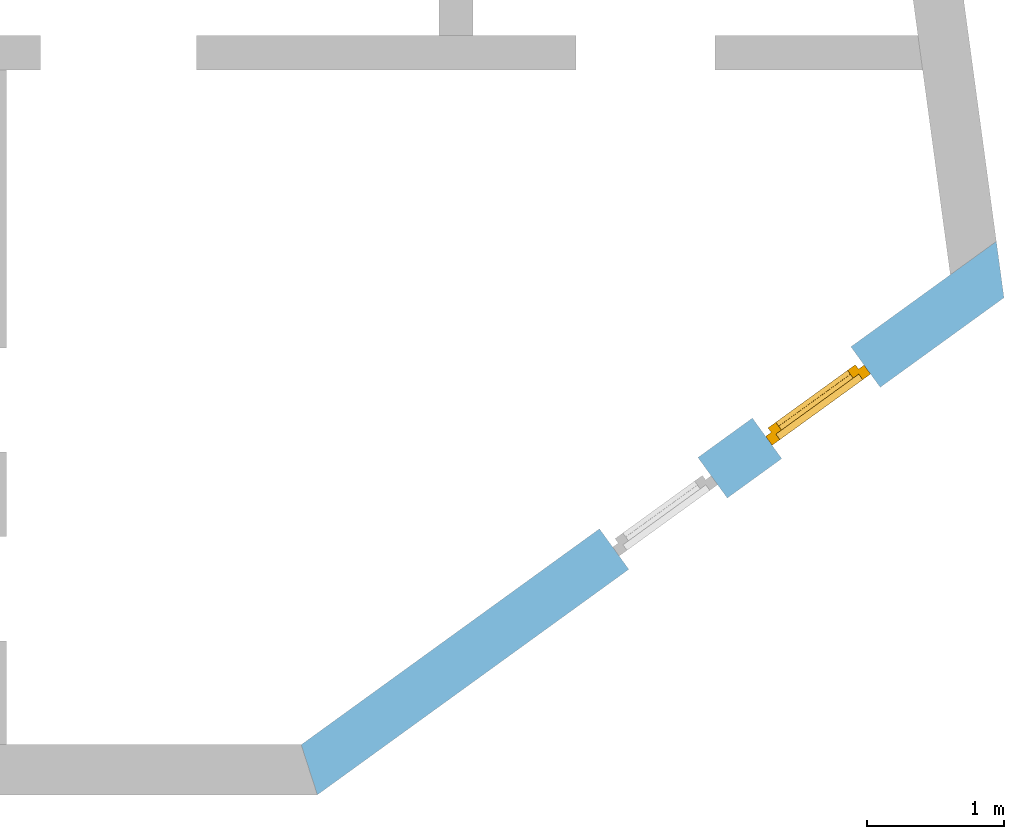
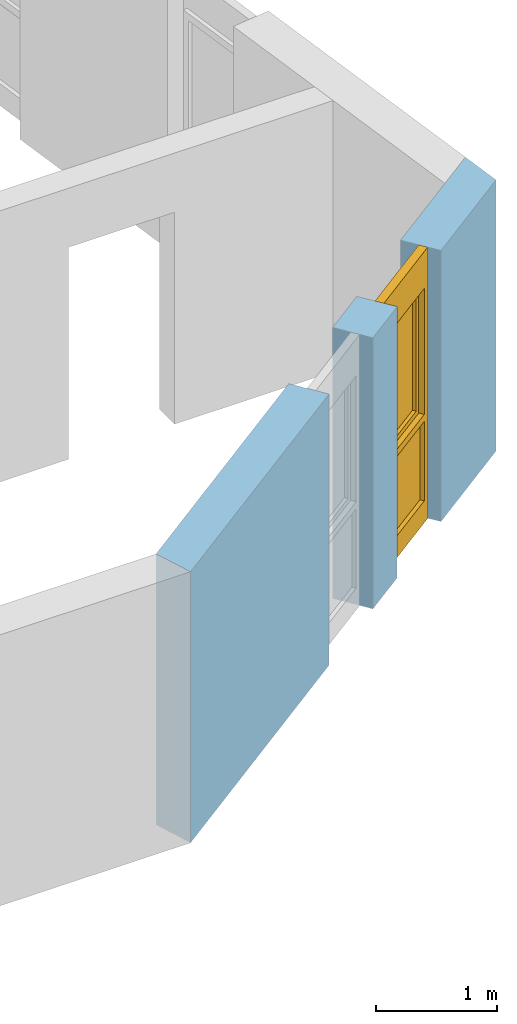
# One storey, part 36 of 41: 1 window, 2 openings, plus 1 element that does not belong to this part.
"""IFC2X3 building model written with IfcOpenShell, lengths in millimetres."""

from ifc_helpers import new_model, entity, si_unit, converted_unit, frame, frame_2d, origin, origin_with_axes, place, context, subcontext, project, spatial, polyline, rectangle, outline, extrude, faceted_brep, material, layer, layer_set, layer_usage, type_object, element, fill, save


model = new_model("IFC2X3")

# Units and contexts
model_context = context("Model", 3, precision=1e-05, world=origin())
body_context = subcontext(model_context, "Body", "Model", "MODEL_VIEW")
ifc_project = project(units=[si_unit("LENGTHUNIT", "METRE", prefix="MILLI"), converted_unit("PLANEANGLEUNIT", "DEGREE", entity("IfcPlaneAngleMeasure", 0.0174532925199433), si_unit("PLANEANGLEUNIT", "RADIAN"), dimensions=[0, 0, 0, 0, 0, 0, 0]), si_unit("AREAUNIT", "SQUARE_METRE"), si_unit("VOLUMEUNIT", "CUBIC_METRE")], contexts=[model_context])

# Building, storey
building_placement = place(None, origin())
building = spatial("IfcBuilding", under=ifc_project, at=building_placement, Name="Gebäude", CompositionType="ELEMENT")
storey_placement = place(building_placement, frame((0.0, 0.0, -200.0), z_axis=(0.0, 0.0, 1.0), x_axis=(1.0, 0.0, 0.0)))
storey = spatial("IfcBuildingStorey", under=building, at=storey_placement, Name="EG.- Grundriss", CompositionType="ELEMENT", Elevation=-200.0)

# Wall, openings, window
ifc_material_1 = material(Name="Poroton")
ifc_layer = layer(ifc_material_1, 364.9999999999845)
ifc_layer_set = layer_set([ifc_layer])
ifc_layer_usage = layer_usage(ifc_layer_set, "AXIS2", "POSITIVE", 0.0)
wall_placement = place(storey_placement, frame((180502.7928055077, 125274.8877315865, 0.0), z_axis=(0.0, 0.0, 1.0), x_axis=(0.8099951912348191, 0.5864365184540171, 0.0)))
wall = element("IfcWallStandardCase", 1, at=wall_placement, inside=storey, material=ifc_layer_usage, Name="<Unnamed Element>", context=body_context, shape_type="SweptSolid", body=[
    extrude(outline(polyline([(0.0, 0.0), (6172.876154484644, 0.0), (6368.596706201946, 364.9999999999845), (118.2596121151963, 365.0000000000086), (0.0, 0.0)])), origin_with_axes(), (0.0, 0.0, 1.0), 2730.0),
])
opening_1_placement = place(wall_placement, frame((4174.999999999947, 1.546140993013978e-11, 0.0), z_axis=(0.0, 1.0, 0.0), x_axis=(0.0, 0.0, 1.0)))
opening_1 = element("IfcOpeningElement", 2, at=opening_1_placement, cuts=wall, Name="Fensteröffnung", ObjectType="Opening", context=body_context, shape_type="SweptSolid", body=[
    extrude(rectangle(XDim=2730.0, YDim=885.0, at=frame_2d((1365.0, 442.5), x_axis=(1.0, 0.0))), origin_with_axes(), (0.0, 0.0, 1.0), 364.9999999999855),
])
opening_2_placement = place(wall_placement, frame((2799.999999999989, 2.023625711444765e-11, 0.0), z_axis=(0.0, 1.0, 0.0), x_axis=(0.0, 0.0, 1.0)))
element("IfcOpeningElement", 3, at=opening_2_placement, cuts=wall, Name="Fensteröffnung", ObjectType="Opening", context=body_context, shape_type="SweptSolid", body=[
    extrude(rectangle(XDim=2730.0, YDim=884.9999999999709, at=frame_2d((1365.0, 442.4999999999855), x_axis=(1.0, 0.0))), origin_with_axes(), (0.0, 0.0, 1.0), 365.0),
])
ifc_material_2 = material()
window_style = type_object("IfcWindowStyle", Name="Fenster", ConstructionType="NOTDEFINED", OperationType="USERDEFINED", ParameterTakesPrecedence=False, Sizeable=False)
window_placement = place(opening_1_placement, frame((0.0, 0.0, 0.0), z_axis=(1.0, 0.0, 0.0), x_axis=(0.0, 1.0, 0.0)))
window = element("IfcWindow", 4, at=window_placement, inside=storey, type_object=window_style, material=ifc_material_2, Name="Fenster", OverallHeight=2730.0, OverallWidth=885.0, context=body_context, shape_type="Brep", body=[
    faceted_brep([(-5.890488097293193e-11, 200.0000000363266, 2730.0), (-5.890488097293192e-11, 200.0000000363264, -2.449293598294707e-15), (69.99999999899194, 200.000000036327, -2.449293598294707e-15), (69.99999999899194, 200.0000000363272, 2730.0), (-5.820766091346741e-11, 120.000000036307, 2.449293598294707e-15), (-5.820766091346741e-11, 120.0000000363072, 2730.0), (69.99999999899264, 120.0000000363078, 2730.0), (69.99999999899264, 120.0000000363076, 2.449293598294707e-15), (-5.890488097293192e-11, 200.0000000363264, -2.449293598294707e-15), (-5.890488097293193e-11, 200.0000000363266, 2730.0), (-5.820766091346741e-11, 120.0000000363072, 2730.0), (-5.820766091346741e-11, 120.000000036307, 2.449293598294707e-15), (69.99999999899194, 200.000000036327, -2.449293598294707e-15), (-5.890488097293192e-11, 200.0000000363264, -2.449293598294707e-15), (-5.820766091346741e-11, 120.000000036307, 2.449293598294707e-15), (69.99999999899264, 120.0000000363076, 2.449293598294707e-15), (69.99999999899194, 200.0000000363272, 2730.0), (69.99999999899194, 200.000000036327, -2.449293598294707e-15), (69.99999999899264, 120.0000000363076, 2.449293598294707e-15), (69.99999999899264, 120.0000000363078, 2730.0), (-5.890488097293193e-11, 200.0000000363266, 2730.0), (69.99999999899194, 200.0000000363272, 2730.0), (69.99999999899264, 120.0000000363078, 2730.0), (-5.820766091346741e-11, 120.0000000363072, 2730.0)], [[[0, 1, 2, 3]], [[4, 5, 6, 7]], [[8, 9, 10, 11]], [[12, 13, 14, 15]], [[16, 17, 18, 19]], [[20, 21, 22, 23]]], orient=[[False], [False], [False], [False], [False], [False]]),
    faceted_brep([(815.00000000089, 200.0000000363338, 2730.0), (815.00000000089, 200.0000000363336, -2.449293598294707e-15), (884.9999999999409, 200.0000000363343, -2.449293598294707e-15), (884.9999999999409, 200.0000000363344, 2730.0), (815.0000000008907, 120.0000000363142, 2.449293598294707e-15), (815.0000000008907, 120.0000000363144, 2730.0), (884.9999999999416, 120.000000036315, 2730.0), (884.9999999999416, 120.0000000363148, 2.449293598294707e-15), (815.00000000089, 200.0000000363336, -2.449293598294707e-15), (815.00000000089, 200.0000000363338, 2730.0), (815.0000000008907, 120.0000000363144, 2730.0), (815.0000000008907, 120.0000000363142, 2.449293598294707e-15), (884.9999999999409, 200.0000000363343, -2.449293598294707e-15), (815.00000000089, 200.0000000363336, -2.449293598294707e-15), (815.0000000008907, 120.0000000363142, 2.449293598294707e-15), (884.9999999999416, 120.0000000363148, 2.449293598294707e-15), (884.9999999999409, 200.0000000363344, 2730.0), (884.9999999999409, 200.0000000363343, -2.449293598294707e-15), (884.9999999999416, 120.0000000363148, 2.449293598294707e-15), (884.9999999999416, 120.000000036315, 2730.0), (815.00000000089, 200.0000000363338, 2730.0), (884.9999999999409, 200.0000000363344, 2730.0), (884.9999999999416, 120.000000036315, 2730.0), (815.0000000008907, 120.0000000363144, 2730.0)], [[[0, 1, 2, 3]], [[4, 5, 6, 7]], [[8, 9, 10, 11]], [[12, 13, 14, 15]], [[16, 17, 18, 19]], [[20, 21, 22, 23]]], orient=[[False], [False], [False], [False], [False], [False]]),
    faceted_brep([(69.99999999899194, 200.0000000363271, 220.0), (69.99999999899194, 200.000000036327, -2.449293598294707e-15), (815.00000000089, 200.0000000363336, -2.449293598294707e-15), (815.00000000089, 200.0000000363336, 220.0), (69.99999999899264, 120.0000000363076, 2.449293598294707e-15), (69.99999999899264, 120.0000000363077, 220.0), (815.0000000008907, 120.0000000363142, 220.0), (815.0000000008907, 120.0000000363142, 2.449293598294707e-15), (69.99999999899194, 200.000000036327, -2.449293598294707e-15), (69.99999999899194, 200.0000000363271, 220.0), (69.99999999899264, 120.0000000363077, 220.0), (69.99999999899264, 120.0000000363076, 2.449293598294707e-15), (815.00000000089, 200.0000000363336, -2.449293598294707e-15), (69.99999999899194, 200.000000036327, -2.449293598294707e-15), (69.99999999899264, 120.0000000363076, 2.449293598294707e-15), (815.0000000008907, 120.0000000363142, 2.449293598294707e-15), (815.00000000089, 200.0000000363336, 220.0), (815.00000000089, 200.0000000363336, -2.449293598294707e-15), (815.0000000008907, 120.0000000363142, 2.449293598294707e-15), (815.0000000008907, 120.0000000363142, 220.0), (69.99999999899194, 200.0000000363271, 220.0), (815.00000000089, 200.0000000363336, 220.0), (815.0000000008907, 120.0000000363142, 220.0), (69.99999999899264, 120.0000000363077, 220.0)], [[[0, 1, 2, 3]], [[4, 5, 6, 7]], [[8, 9, 10, 11]], [[12, 13, 14, 15]], [[16, 17, 18, 19]], [[20, 21, 22, 23]]], orient=[[False], [False], [False], [False], [False], [False]]),
    faceted_brep([(69.99999999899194, 200.0000000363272, 2730.0), (69.99999999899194, 200.0000000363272, 2360.0), (815.00000000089, 200.0000000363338, 2360.0), (815.00000000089, 200.0000000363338, 2730.0), (69.99999999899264, 120.0000000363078, 2360.0), (69.99999999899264, 120.0000000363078, 2730.0), (815.0000000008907, 120.0000000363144, 2730.0), (815.0000000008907, 120.0000000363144, 2360.0), (69.99999999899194, 200.0000000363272, 2360.0), (69.99999999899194, 200.0000000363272, 2730.0), (69.99999999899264, 120.0000000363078, 2730.0), (69.99999999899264, 120.0000000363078, 2360.0), (815.00000000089, 200.0000000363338, 2360.0), (69.99999999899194, 200.0000000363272, 2360.0), (69.99999999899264, 120.0000000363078, 2360.0), (815.0000000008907, 120.0000000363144, 2360.0), (815.00000000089, 200.0000000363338, 2730.0), (815.00000000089, 200.0000000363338, 2360.0), (815.0000000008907, 120.0000000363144, 2360.0), (815.0000000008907, 120.0000000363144, 2730.0), (69.99999999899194, 200.0000000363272, 2730.0), (815.00000000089, 200.0000000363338, 2730.0), (815.0000000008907, 120.0000000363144, 2730.0), (69.99999999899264, 120.0000000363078, 2730.0)], [[[0, 1, 2, 3]], [[4, 5, 6, 7]], [[8, 9, 10, 11]], [[12, 13, 14, 15]], [[16, 17, 18, 19]], [[20, 21, 22, 23]]], orient=[[False], [False], [False], [False], [False], [False]]),
    faceted_brep([(69.99999999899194, 200.0000000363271, 1090.0), (69.99999999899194, 200.0000000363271, 1020.0), (815.00000000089, 200.0000000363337, 1020.0), (815.00000000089, 200.0000000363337, 1090.0), (69.99999999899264, 120.0000000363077, 1020.0), (69.99999999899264, 120.0000000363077, 1090.0), (815.0000000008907, 120.0000000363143, 1090.0), (815.0000000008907, 120.0000000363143, 1020.0), (69.99999999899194, 200.0000000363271, 1020.0), (69.99999999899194, 200.0000000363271, 1090.0), (69.99999999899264, 120.0000000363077, 1090.0), (69.99999999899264, 120.0000000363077, 1020.0), (815.00000000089, 200.0000000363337, 1020.0), (69.99999999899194, 200.0000000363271, 1020.0), (69.99999999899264, 120.0000000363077, 1020.0), (815.0000000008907, 120.0000000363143, 1020.0), (815.00000000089, 200.0000000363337, 1090.0), (815.00000000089, 200.0000000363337, 1020.0), (815.0000000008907, 120.0000000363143, 1020.0), (815.0000000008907, 120.0000000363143, 1090.0), (69.99999999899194, 200.0000000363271, 1090.0), (815.00000000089, 200.0000000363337, 1090.0), (815.0000000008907, 120.0000000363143, 1090.0), (69.99999999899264, 120.0000000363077, 1090.0)], [[[0, 1, 2, 3]], [[4, 5, 6, 7]], [[8, 9, 10, 11]], [[12, 13, 14, 15]], [[16, 17, 18, 19]], [[20, 21, 22, 23]]], orient=[[False], [False], [False], [False], [False], [False]]),
    faceted_brep([(69.99999999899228, 160.0000000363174, 220.0), (815.0000000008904, 160.0000000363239, 220.0), (815.0000000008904, 160.000000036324, 1020.0), (69.99999999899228, 160.0000000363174, 1020.0), (69.9999999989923, 159.0000000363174, 220.0), (69.9999999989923, 159.0000000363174, 1020.0), (815.0000000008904, 159.000000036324, 1020.0), (815.0000000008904, 159.0000000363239, 220.0), (69.99999999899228, 160.0000000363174, 220.0), (69.9999999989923, 159.0000000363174, 220.0), (815.0000000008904, 159.0000000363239, 220.0), (815.0000000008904, 160.0000000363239, 220.0), (815.0000000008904, 160.0000000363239, 220.0), (815.0000000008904, 159.0000000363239, 220.0), (815.0000000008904, 159.000000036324, 1020.0), (815.0000000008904, 160.000000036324, 1020.0), (815.0000000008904, 160.000000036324, 1020.0), (815.0000000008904, 159.000000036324, 1020.0), (69.9999999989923, 159.0000000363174, 1020.0), (69.99999999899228, 160.0000000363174, 1020.0), (69.99999999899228, 160.0000000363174, 1020.0), (69.9999999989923, 159.0000000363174, 1020.0), (69.9999999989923, 159.0000000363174, 220.0), (69.99999999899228, 160.0000000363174, 220.0)], [[[0, 1, 2, 3]], [[4, 5, 6, 7]], [[8, 9, 10, 11]], [[12, 13, 14, 15]], [[16, 17, 18, 19]], [[20, 21, 22, 23]]], orient=[[False], [False], [False], [False], [False], [False]]),
    faceted_brep([(49.99999999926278, 240.0000000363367, 2380.0), (49.99999999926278, 240.0000000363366, 1070.0), (119.9999999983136, 240.0000000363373, 1070.0), (119.9999999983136, 240.0000000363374, 2380.0), (49.99999999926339, 170.0000000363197, 1070.0), (49.99999999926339, 170.0000000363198, 2380.0), (119.9999999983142, 170.0000000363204, 2380.0), (119.9999999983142, 170.0000000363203, 1070.0), (49.99999999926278, 240.0000000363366, 1070.0), (49.99999999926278, 240.0000000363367, 2380.0), (49.99999999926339, 170.0000000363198, 2380.0), (49.99999999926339, 170.0000000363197, 1070.0), (119.9999999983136, 240.0000000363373, 1070.0), (49.99999999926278, 240.0000000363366, 1070.0), (49.99999999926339, 170.0000000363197, 1070.0), (119.9999999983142, 170.0000000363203, 1070.0), (119.9999999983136, 240.0000000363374, 2380.0), (119.9999999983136, 240.0000000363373, 1070.0), (119.9999999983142, 170.0000000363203, 1070.0), (119.9999999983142, 170.0000000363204, 2380.0), (49.99999999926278, 240.0000000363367, 2380.0), (119.9999999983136, 240.0000000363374, 2380.0), (119.9999999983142, 170.0000000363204, 2380.0), (49.99999999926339, 170.0000000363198, 2380.0)], [[[0, 1, 2, 3]], [[4, 5, 6, 7]], [[8, 9, 10, 11]], [[12, 13, 14, 15]], [[16, 17, 18, 19]], [[20, 21, 22, 23]]], orient=[[False], [False], [False], [False], [False], [False]]),
    faceted_brep([(765.0000000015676, 240.000000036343, 2380.0), (765.0000000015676, 240.000000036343, 1070.0), (835.0000000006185, 240.0000000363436, 1070.0), (835.0000000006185, 240.0000000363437, 2380.0), (765.0000000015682, 170.000000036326, 1070.0), (765.0000000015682, 170.0000000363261, 2380.0), (835.000000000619, 170.0000000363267, 2380.0), (835.000000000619, 170.0000000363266, 1070.0), (765.0000000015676, 240.000000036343, 1070.0), (765.0000000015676, 240.000000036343, 2380.0), (765.0000000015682, 170.0000000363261, 2380.0), (765.0000000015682, 170.000000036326, 1070.0), (835.0000000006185, 240.0000000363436, 1070.0), (765.0000000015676, 240.000000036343, 1070.0), (765.0000000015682, 170.000000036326, 1070.0), (835.000000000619, 170.0000000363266, 1070.0), (835.0000000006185, 240.0000000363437, 2380.0), (835.0000000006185, 240.0000000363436, 1070.0), (835.000000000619, 170.0000000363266, 1070.0), (835.000000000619, 170.0000000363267, 2380.0), (765.0000000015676, 240.000000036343, 2380.0), (835.0000000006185, 240.0000000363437, 2380.0), (835.000000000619, 170.0000000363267, 2380.0), (765.0000000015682, 170.0000000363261, 2380.0)], [[[0, 1, 2, 3]], [[4, 5, 6, 7]], [[8, 9, 10, 11]], [[12, 13, 14, 15]], [[16, 17, 18, 19]], [[20, 21, 22, 23]]], orient=[[False], [False], [False], [False], [False], [False]]),
    faceted_brep([(119.9999999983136, 240.0000000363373, 1140.0), (119.9999999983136, 240.0000000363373, 1070.0), (765.0000000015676, 240.000000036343, 1070.0), (765.0000000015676, 240.000000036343, 1140.0), (119.9999999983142, 170.0000000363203, 1070.0), (119.9999999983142, 170.0000000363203, 1140.0), (765.0000000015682, 170.000000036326, 1140.0), (765.0000000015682, 170.000000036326, 1070.0), (119.9999999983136, 240.0000000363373, 1070.0), (119.9999999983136, 240.0000000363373, 1140.0), (119.9999999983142, 170.0000000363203, 1140.0), (119.9999999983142, 170.0000000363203, 1070.0), (765.0000000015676, 240.000000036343, 1070.0), (119.9999999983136, 240.0000000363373, 1070.0), (119.9999999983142, 170.0000000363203, 1070.0), (765.0000000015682, 170.000000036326, 1070.0), (765.0000000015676, 240.000000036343, 1140.0), (765.0000000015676, 240.000000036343, 1070.0), (765.0000000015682, 170.000000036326, 1070.0), (765.0000000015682, 170.000000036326, 1140.0), (119.9999999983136, 240.0000000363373, 1140.0), (765.0000000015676, 240.000000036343, 1140.0), (765.0000000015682, 170.000000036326, 1140.0), (119.9999999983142, 170.0000000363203, 1140.0)], [[[0, 1, 2, 3]], [[4, 5, 6, 7]], [[8, 9, 10, 11]], [[12, 13, 14, 15]], [[16, 17, 18, 19]], [[20, 21, 22, 23]]], orient=[[False], [False], [False], [False], [False], [False]]),
    faceted_brep([(119.9999999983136, 240.0000000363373, 2380.0), (119.9999999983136, 240.0000000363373, 2310.0), (765.0000000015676, 240.000000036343, 2310.0), (765.0000000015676, 240.000000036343, 2380.0), (119.9999999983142, 170.0000000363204, 2310.0), (119.9999999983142, 170.0000000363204, 2380.0), (765.0000000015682, 170.000000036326, 2380.0), (765.0000000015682, 170.000000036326, 2310.0), (119.9999999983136, 240.0000000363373, 2310.0), (119.9999999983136, 240.0000000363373, 2380.0), (119.9999999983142, 170.0000000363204, 2380.0), (119.9999999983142, 170.0000000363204, 2310.0), (765.0000000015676, 240.000000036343, 2310.0), (119.9999999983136, 240.0000000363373, 2310.0), (119.9999999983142, 170.0000000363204, 2310.0), (765.0000000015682, 170.000000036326, 2310.0), (765.0000000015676, 240.000000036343, 2380.0), (765.0000000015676, 240.000000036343, 2310.0), (765.0000000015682, 170.000000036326, 2310.0), (765.0000000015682, 170.000000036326, 2380.0), (119.9999999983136, 240.0000000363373, 2380.0), (765.0000000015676, 240.000000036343, 2380.0), (765.0000000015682, 170.000000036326, 2380.0), (119.9999999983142, 170.0000000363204, 2380.0)], [[[0, 1, 2, 3]], [[4, 5, 6, 7]], [[8, 9, 10, 11]], [[12, 13, 14, 15]], [[16, 17, 18, 19]], [[20, 21, 22, 23]]], orient=[[False], [False], [False], [False], [False], [False]]),
    faceted_brep([(119.9999999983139, 205.0000000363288, 1140.0), (765.0000000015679, 205.0000000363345, 1140.0), (765.0000000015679, 205.0000000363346, 2310.0), (119.9999999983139, 205.0000000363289, 2310.0), (119.999999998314, 204.0000000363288, 1140.0), (119.999999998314, 204.0000000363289, 2310.0), (765.0000000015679, 204.0000000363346, 2310.0), (765.0000000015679, 204.0000000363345, 1140.0), (119.9999999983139, 205.0000000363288, 1140.0), (119.999999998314, 204.0000000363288, 1140.0), (765.0000000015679, 204.0000000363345, 1140.0), (765.0000000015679, 205.0000000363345, 1140.0), (765.0000000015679, 205.0000000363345, 1140.0), (765.0000000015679, 204.0000000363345, 1140.0), (765.0000000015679, 204.0000000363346, 2310.0), (765.0000000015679, 205.0000000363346, 2310.0), (765.0000000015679, 205.0000000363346, 2310.0), (765.0000000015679, 204.0000000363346, 2310.0), (119.999999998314, 204.0000000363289, 2310.0), (119.9999999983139, 205.0000000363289, 2310.0), (119.9999999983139, 205.0000000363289, 2310.0), (119.999999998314, 204.0000000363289, 2310.0), (119.999999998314, 204.0000000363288, 1140.0), (119.9999999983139, 205.0000000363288, 1140.0)], [[[0, 1, 2, 3]], [[4, 5, 6, 7]], [[8, 9, 10, 11]], [[12, 13, 14, 15]], [[16, 17, 18, 19]], [[20, 21, 22, 23]]], orient=[[False], [False], [False], [False], [False], [False]]),
])
fill(opening_1, window)

save(model, "model.ifc")
